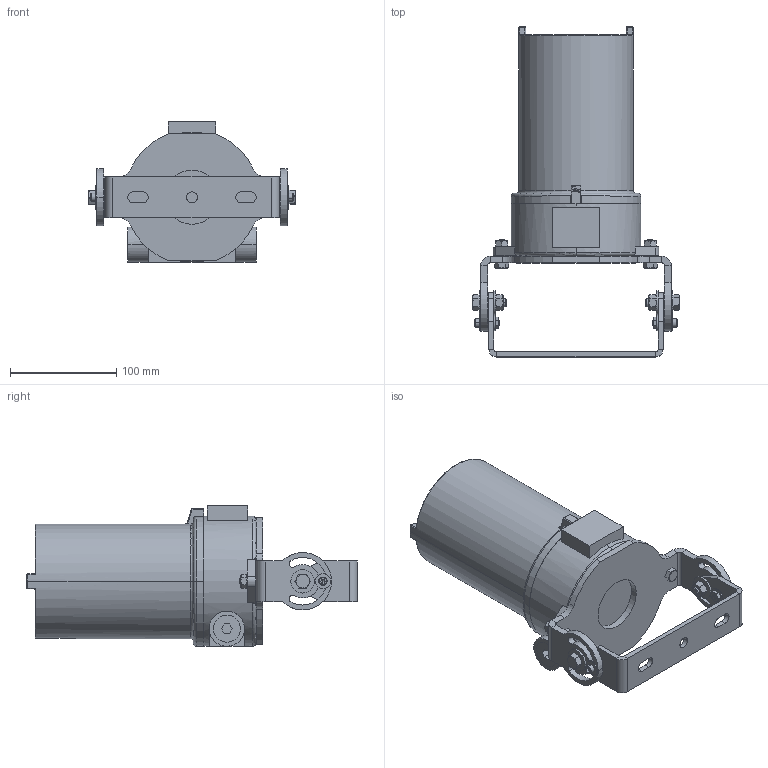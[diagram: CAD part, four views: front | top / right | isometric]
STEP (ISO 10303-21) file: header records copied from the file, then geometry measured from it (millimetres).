
FILE_DESCRIPTION (( 'STEP AP214' ), '1' );
FILE_NAME ('EXPCMR-IP-POE-OZ-6MP.STEP', '2018-07-13T21:50:21', ( '' ), ( '' ), 'SwSTEP 2.0', 'SolidWorks 2016', '' );
FILE_SCHEMA (( 'AUTOMOTIVE_DESIGN' ));
Length unit declared in the file: inch
Products named in the file (15): machine screw nut hex_ai_MSHXNUT 0.190-24-S-N; socket head cap screw_ai_HX-SHCS 0.19-24x0.75x0.75-N; hex bolt_ai_HBOLT 0.3125-18x1x0.875-N; Base_Base; 1in-12 x 6in set screw_Flat Set Screw ; flat washer type b regular_ai_Regular FW 0.3125; flat washer type b regular_ai_Regular FW 0.19; EXPCMR-IP-POE-OZ-6MP; hex nut_ai_HNUT 0.2500-20-D-N; HKB-GL Trunnion B; HKB-GL Trunnion A; hex bolt_ai_HBOLT 0.2500-20x0.875x0.75-N; EXPCMR-IP-POE-OZ-6MP_Long Lens; hex nut_ai_HNUT 0.3125-18-D-N; Cover_Long Lens
Assembly tree (27 placements, depth 3):
  EXPCMR-IP-POE-OZ-6MP
    EXPCMR-IP-POE-OZ-6MP_Long Lens
      Base_Base
      Cover_Long Lens
      1in-12 x 6in set screw_Flat Set Screw   x2
    HKB-GL Trunnion A
    HKB-GL Trunnion B
    flat washer type b regular_ai_Regular FW 0.3125  x4
    hex nut_ai_HNUT 0.3125-18-D-N  x2
    hex bolt_ai_HBOLT 0.3125-18x1x0.875-N  x2
    flat washer type b regular_ai_Regular FW 0.19  x4
    machine screw nut hex_ai_MSHXNUT 0.190-24-S-N  x2
    socket head cap screw_ai_HX-SHCS 0.19-24x0.75x0.75-N  x2
    hex nut_ai_HNUT 0.2500-20-D-N  x2
    hex bolt_ai_HBOLT 0.2500-20x0.875x0.75-N  x2
Bounding box: 194.21 x 310.41 x 132.12 mm (x, y, z)
Volume: 831467.6 mm3; surface area: 298534.9 mm2
Topology: 27 solids, 27 shells, 730 faces, 1667 edges, 1001 vertices
Faces by surface type: plane 271, cylinder 252, cone 130, torus 61, sphere 12, bspline 4
Entity records: 17314 total; most frequent: CARTESIAN_POINT 4029, DIRECTION 2801, ORIENTED_EDGE 2506, EDGE_CURVE 1253, AXIS2_PLACEMENT_3D 1130, VERTEX_POINT 756, EDGE_LOOP 603, CIRCLE 563
